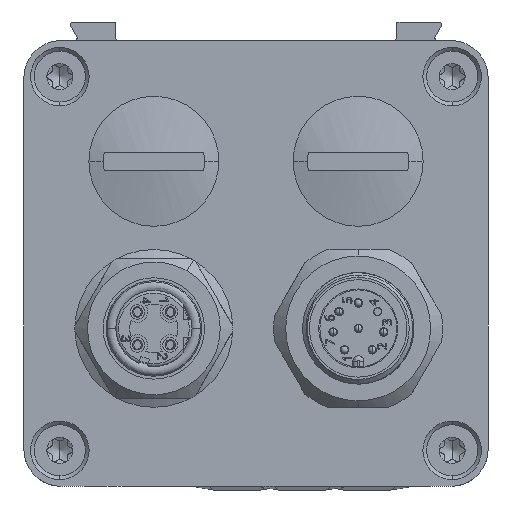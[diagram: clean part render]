
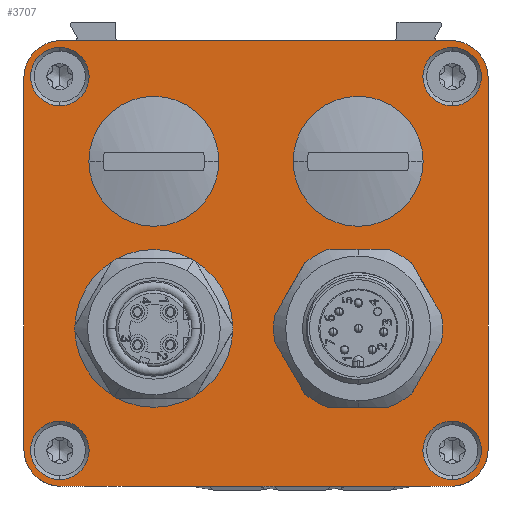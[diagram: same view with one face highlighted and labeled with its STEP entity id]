
A CAD part, front view. The second image highlights one B-rep face of the part: STEP entity #3707.
In plain terms, the highlighted planar face has unit normal (0, -1, 0).
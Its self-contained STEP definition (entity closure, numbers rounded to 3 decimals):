
#2947=CARTESIAN_POINT('',(21.,0.,-20.));
#2948=DIRECTION('',(0.,-1.,0.));
#2949=DIRECTION('',(0.,0.,-1.));
#2950=AXIS2_PLACEMENT_3D('',#2947,#2948,#2949);
#2955=DIRECTION('',(1.,0.,0.));
#2956=VECTOR('',#2955,42.);
#2957=CARTESIAN_POINT('',(-21.,0.,-24.));
#2958=LINE('',#2957,#2956);
#2962=CARTESIAN_POINT('',(-21.,0.,-20.));
#2963=DIRECTION('',(0.,-1.,0.));
#2964=DIRECTION('',(-1.,0.,0.));
#2965=AXIS2_PLACEMENT_3D('',#2962,#2963,#2964);
#2970=DIRECTION('',(0.,0.,-1.));
#2971=VECTOR('',#2970,40.);
#2972=CARTESIAN_POINT('',(-25.,0.,20.));
#2973=LINE('',#2972,#2971);
#2977=CARTESIAN_POINT('',(-21.,0.,20.));
#2978=DIRECTION('',(0.,-1.,0.));
#2979=DIRECTION('',(0.,0.,1.));
#2980=AXIS2_PLACEMENT_3D('',#2977,#2978,#2979);
#2985=CARTESIAN_POINT('',(21.,0.,20.));
#2986=DIRECTION('',(0.,-1.,0.));
#2987=DIRECTION('',(1.,0.,0.));
#2988=AXIS2_PLACEMENT_3D('',#2985,#2986,#2987);
#2993=CARTESIAN_POINT('',(-11.,0.,11.));
#2994=DIRECTION('',(0.,1.,0.));
#2995=DIRECTION('',(0.,0.,1.));
#2996=AXIS2_PLACEMENT_3D('',#2993,#2994,#2995);
#3001=CARTESIAN_POINT('',(-11.,0.,11.));
#3002=DIRECTION('',(0.,1.,0.));
#3003=DIRECTION('',(0.,0.,-1.));
#3004=AXIS2_PLACEMENT_3D('',#3001,#3002,#3003);
#3009=CARTESIAN_POINT('',(-11.,0.,-7.));
#3010=DIRECTION('',(0.,1.,0.));
#3011=DIRECTION('',(0.,0.,1.));
#3012=AXIS2_PLACEMENT_3D('',#3009,#3010,#3011);
#3017=CARTESIAN_POINT('',(-11.,0.,-7.));
#3018=DIRECTION('',(0.,1.,0.));
#3019=DIRECTION('',(0.,0.,-1.));
#3020=AXIS2_PLACEMENT_3D('',#3017,#3018,#3019);
#3025=CARTESIAN_POINT('',(-21.125,0.,20.125));
#3026=DIRECTION('',(0.,1.,0.));
#3027=DIRECTION('',(0.,0.,1.));
#3028=AXIS2_PLACEMENT_3D('',#3025,#3026,#3027);
#3033=CARTESIAN_POINT('',(-21.125,0.,20.125));
#3034=DIRECTION('',(0.,1.,0.));
#3035=DIRECTION('',(0.,0.,-1.));
#3036=AXIS2_PLACEMENT_3D('',#3033,#3034,#3035);
#3041=CARTESIAN_POINT('',(21.125,0.,20.125));
#3042=DIRECTION('',(0.,1.,0.));
#3043=DIRECTION('',(0.,0.,1.));
#3044=AXIS2_PLACEMENT_3D('',#3041,#3042,#3043);
#3049=CARTESIAN_POINT('',(21.125,0.,20.125));
#3050=DIRECTION('',(0.,1.,0.));
#3051=DIRECTION('',(0.,0.,-1.));
#3052=AXIS2_PLACEMENT_3D('',#3049,#3050,#3051);
#3057=CARTESIAN_POINT('',(21.125,0.,-20.125));
#3058=DIRECTION('',(0.,1.,0.));
#3059=DIRECTION('',(0.,0.,1.));
#3060=AXIS2_PLACEMENT_3D('',#3057,#3058,#3059);
#3065=CARTESIAN_POINT('',(21.125,0.,-20.125));
#3066=DIRECTION('',(0.,1.,0.));
#3067=DIRECTION('',(0.,0.,-1.));
#3068=AXIS2_PLACEMENT_3D('',#3065,#3066,#3067);
#3073=CARTESIAN_POINT('',(-21.125,0.,-20.125));
#3074=DIRECTION('',(0.,1.,0.));
#3075=DIRECTION('',(0.,0.,1.));
#3076=AXIS2_PLACEMENT_3D('',#3073,#3074,#3075);
#3081=CARTESIAN_POINT('',(-21.125,0.,-20.125));
#3082=DIRECTION('',(0.,1.,0.));
#3083=DIRECTION('',(0.,0.,-1.));
#3084=AXIS2_PLACEMENT_3D('',#3081,#3082,#3083);
#3089=CARTESIAN_POINT('',(11.,0.,-7.));
#3090=DIRECTION('',(0.,1.,0.));
#3091=DIRECTION('',(0.,0.,1.));
#3092=AXIS2_PLACEMENT_3D('',#3089,#3090,#3091);
#3097=CARTESIAN_POINT('',(11.,0.,-7.));
#3098=DIRECTION('',(0.,1.,0.));
#3099=DIRECTION('',(0.,0.,-1.));
#3100=AXIS2_PLACEMENT_3D('',#3097,#3098,#3099);
#3105=CARTESIAN_POINT('',(11.,0.,11.));
#3106=DIRECTION('',(0.,1.,0.));
#3107=DIRECTION('',(0.,0.,1.));
#3108=AXIS2_PLACEMENT_3D('',#3105,#3106,#3107);
#3113=CARTESIAN_POINT('',(11.,0.,11.));
#3114=DIRECTION('',(0.,1.,0.));
#3115=DIRECTION('',(0.,0.,-1.));
#3116=AXIS2_PLACEMENT_3D('',#3113,#3114,#3115);
#3121=DIRECTION('',(0.,0.,-1.));
#3122=VECTOR('',#3121,40.);
#3123=CARTESIAN_POINT('',(25.,0.,20.));
#3124=LINE('',#3123,#3122);
#3142=DIRECTION('',(1.,0.,0.));
#3143=VECTOR('',#3142,42.);
#3144=CARTESIAN_POINT('',(-21.,0.,24.));
#3145=LINE('',#3144,#3143);
#3427=CARTESIAN_POINT('',(-21.125,0.,-16.975));
#3428=CARTESIAN_POINT('',(-21.125,0.,-23.275));
#3429=VERTEX_POINT('',#3427);
#3430=VERTEX_POINT('',#3428);
#3433=CARTESIAN_POINT('',(25.,0.,20.));
#3434=CARTESIAN_POINT('',(25.,0.,-20.));
#3435=VERTEX_POINT('',#3433);
#3436=VERTEX_POINT('',#3434);
#3441=CARTESIAN_POINT('',(11.,0.,-13.));
#3443=VERTEX_POINT('',#3441);
#3457=CARTESIAN_POINT('',(11.,0.,17.));
#3458=CARTESIAN_POINT('',(11.,0.,5.));
#3459=VERTEX_POINT('',#3457);
#3460=VERTEX_POINT('',#3458);
#3461=CARTESIAN_POINT('',(-21.,0.,24.));
#3462=CARTESIAN_POINT('',(-25.,0.,20.));
#3463=VERTEX_POINT('',#3461);
#3464=VERTEX_POINT('',#3462);
#3469=CARTESIAN_POINT('',(-25.,0.,-20.));
#3470=VERTEX_POINT('',#3469);
#3471=CARTESIAN_POINT('',(-21.,0.,-24.));
#3472=VERTEX_POINT('',#3471);
#3477=CARTESIAN_POINT('',(-11.,0.,5.));
#3478=CARTESIAN_POINT('',(-11.,0.,17.));
#3479=VERTEX_POINT('',#3477);
#3480=VERTEX_POINT('',#3478);
#3481=CARTESIAN_POINT('',(-21.125,0.,23.275));
#3483=VERTEX_POINT('',#3481);
#3491=CARTESIAN_POINT('',(11.,0.,-1.));
#3492=VERTEX_POINT('',#3491);
#3493=CARTESIAN_POINT('',(21.125,0.,23.275));
#3494=VERTEX_POINT('',#3493);
#3499=CARTESIAN_POINT('',(21.125,0.,16.975));
#3500=VERTEX_POINT('',#3499);
#3505=CARTESIAN_POINT('',(-11.,0.,-13.));
#3506=VERTEX_POINT('',#3505);
#3513=CARTESIAN_POINT('',(-21.125,0.,16.975));
#3514=VERTEX_POINT('',#3513);
#3515=CARTESIAN_POINT('',(21.125,0.,-23.275));
#3516=CARTESIAN_POINT('',(21.125,0.,-16.975));
#3517=VERTEX_POINT('',#3515);
#3518=VERTEX_POINT('',#3516);
#3521=CARTESIAN_POINT('',(-11.,0.,-1.));
#3522=VERTEX_POINT('',#3521);
#3523=CARTESIAN_POINT('',(21.,0.,-24.));
#3524=VERTEX_POINT('',#3523);
#3525=CARTESIAN_POINT('',(21.,0.,24.));
#3526=VERTEX_POINT('',#3525);
#3637=CARTESIAN_POINT('',(-21.,0.,-20.));
#3638=DIRECTION('',(0.,-1.,0.));
#3639=DIRECTION('',(0.,0.,-1.));
#3640=AXIS2_PLACEMENT_3D('',#3637,#3638,#3639);
#3641=PLANE('',#3640);
#3643=ORIENTED_EDGE('',*,*,#3642,.T.);
#3645=ORIENTED_EDGE('',*,*,#3644,.F.);
#3647=ORIENTED_EDGE('',*,*,#3646,.F.);
#3649=ORIENTED_EDGE('',*,*,#3648,.F.);
#3650=ORIENTED_EDGE('',*,*,#3627,.F.);
#3652=ORIENTED_EDGE('',*,*,#3651,.F.);
#3654=ORIENTED_EDGE('',*,*,#3653,.T.);
#3656=ORIENTED_EDGE('',*,*,#3655,.F.);
#3657=EDGE_LOOP('',(#3643,#3645,#3647,#3649,#3650,#3652,#3654,#3656));
#3658=FACE_OUTER_BOUND('',#3657,.F.);
#3660=ORIENTED_EDGE('',*,*,#3659,.F.);
#3662=ORIENTED_EDGE('',*,*,#3661,.F.);
#3663=EDGE_LOOP('',(#3660,#3662));
#3664=FACE_BOUND('',#3663,.F.);
#3666=ORIENTED_EDGE('',*,*,#3665,.F.);
#3668=ORIENTED_EDGE('',*,*,#3667,.F.);
#3669=EDGE_LOOP('',(#3666,#3668));
#3670=FACE_BOUND('',#3669,.F.);
#3672=ORIENTED_EDGE('',*,*,#3671,.F.);
#3674=ORIENTED_EDGE('',*,*,#3673,.F.);
#3675=EDGE_LOOP('',(#3672,#3674));
#3676=FACE_BOUND('',#3675,.F.);
#3678=ORIENTED_EDGE('',*,*,#3677,.F.);
#3680=ORIENTED_EDGE('',*,*,#3679,.F.);
#3681=EDGE_LOOP('',(#3678,#3680));
#3682=FACE_BOUND('',#3681,.F.);
#3684=ORIENTED_EDGE('',*,*,#3683,.F.);
#3686=ORIENTED_EDGE('',*,*,#3685,.F.);
#3687=EDGE_LOOP('',(#3684,#3686));
#3688=FACE_BOUND('',#3687,.F.);
#3690=ORIENTED_EDGE('',*,*,#3689,.F.);
#3692=ORIENTED_EDGE('',*,*,#3691,.F.);
#3693=EDGE_LOOP('',(#3690,#3692));
#3694=FACE_BOUND('',#3693,.F.);
#3696=ORIENTED_EDGE('',*,*,#3695,.F.);
#3698=ORIENTED_EDGE('',*,*,#3697,.F.);
#3699=EDGE_LOOP('',(#3696,#3698));
#3700=FACE_BOUND('',#3699,.F.);
#3702=ORIENTED_EDGE('',*,*,#3701,.F.);
#3704=ORIENTED_EDGE('',*,*,#3703,.F.);
#3705=EDGE_LOOP('',(#3702,#3704));
#3706=FACE_BOUND('',#3705,.F.);
#2951=CIRCLE('',#2950,4.);
#2966=CIRCLE('',#2965,4.);
#2981=CIRCLE('',#2980,4.);
#2989=CIRCLE('',#2988,4.);
#2997=CIRCLE('',#2996,6.);
#3005=CIRCLE('',#3004,6.);
#3013=CIRCLE('',#3012,6.);
#3021=CIRCLE('',#3020,6.);
#3029=CIRCLE('',#3028,3.15);
#3037=CIRCLE('',#3036,3.15);
#3045=CIRCLE('',#3044,3.15);
#3053=CIRCLE('',#3052,3.15);
#3061=CIRCLE('',#3060,3.15);
#3069=CIRCLE('',#3068,3.15);
#3077=CIRCLE('',#3076,3.15);
#3085=CIRCLE('',#3084,3.15);
#3093=CIRCLE('',#3092,6.);
#3101=CIRCLE('',#3100,6.);
#3109=CIRCLE('',#3108,6.);
#3117=CIRCLE('',#3116,6.);
#3627=EDGE_CURVE('',#3464,#3470,#2973,.T.);
#3642=EDGE_CURVE('',#3435,#3436,#3124,.T.);
#3644=EDGE_CURVE('',#3524,#3436,#2951,.T.);
#3646=EDGE_CURVE('',#3472,#3524,#2958,.T.);
#3648=EDGE_CURVE('',#3470,#3472,#2966,.T.);
#3651=EDGE_CURVE('',#3463,#3464,#2981,.T.);
#3653=EDGE_CURVE('',#3463,#3526,#3145,.T.);
#3655=EDGE_CURVE('',#3435,#3526,#2989,.T.);
#3659=EDGE_CURVE('',#3480,#3479,#2997,.T.);
#3661=EDGE_CURVE('',#3479,#3480,#3005,.T.);
#3665=EDGE_CURVE('',#3522,#3506,#3013,.T.);
#3667=EDGE_CURVE('',#3506,#3522,#3021,.T.);
#3671=EDGE_CURVE('',#3483,#3514,#3029,.T.);
#3673=EDGE_CURVE('',#3514,#3483,#3037,.T.);
#3677=EDGE_CURVE('',#3494,#3500,#3045,.T.);
#3679=EDGE_CURVE('',#3500,#3494,#3053,.T.);
#3683=EDGE_CURVE('',#3518,#3517,#3061,.T.);
#3685=EDGE_CURVE('',#3517,#3518,#3069,.T.);
#3689=EDGE_CURVE('',#3429,#3430,#3077,.T.);
#3691=EDGE_CURVE('',#3430,#3429,#3085,.T.);
#3695=EDGE_CURVE('',#3492,#3443,#3093,.T.);
#3697=EDGE_CURVE('',#3443,#3492,#3101,.T.);
#3701=EDGE_CURVE('',#3459,#3460,#3109,.T.);
#3703=EDGE_CURVE('',#3460,#3459,#3117,.T.);
#3707=ADVANCED_FACE('',(#3658,#3664,#3670,#3676,#3682,#3688,#3694,#3700,#3706),
#3641,.T.);
